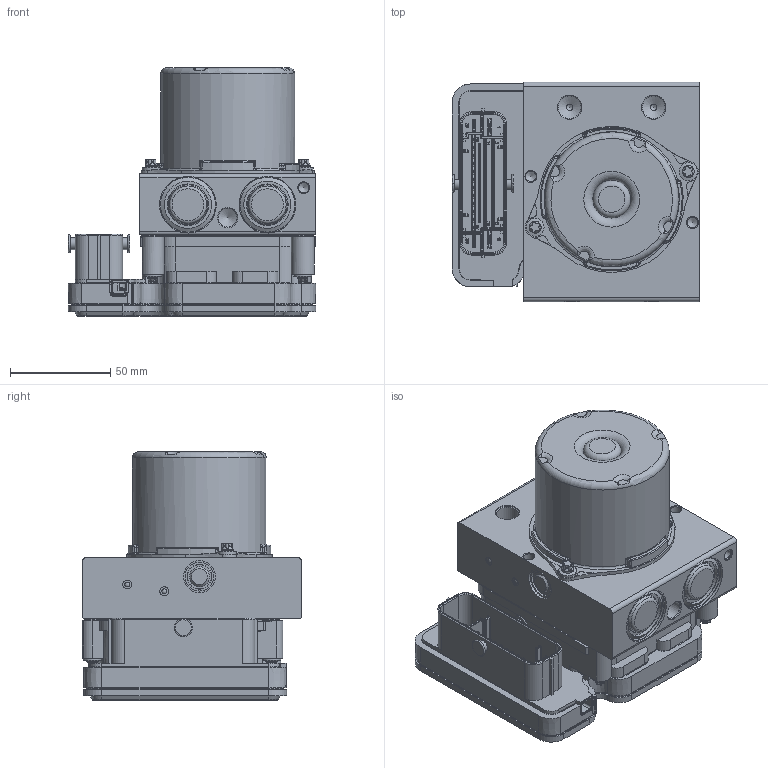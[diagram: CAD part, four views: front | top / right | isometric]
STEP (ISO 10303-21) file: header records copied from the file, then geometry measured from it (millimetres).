
FILE_DESCRIPTION(/* description */ (''),/* implementation_level */ '2;1');
FILE_NAME(/* name */ '0265A44672_001.stp',/* time_stamp */ '2017-04-25T10:29:24+07:00',/* author */ (''),/* organization */ (''),/* preprocessor_version */ 'ST-DEVELOPER v15',/* originating_system */ 'SIEMENS PLM Software NX 9.0',/* authorisation */ '');
FILE_SCHEMA (('AUTOMOTIVE_DESIGN { 1 0 10303 214 3 1 1 1 }'));
Products named in the file (5): 0130A00197_AGZ_001; 1263414853-ECU_001; 2264490337_AGZ_001; 0265A44672-AGZ_002; 0265A44672_001
Assembly tree (7 placements, depth 2):
  0265A44672_001
    0265A44672-AGZ_002
    2264490337_AGZ_001
    1263414853-ECU_001  x4
    0130A00197_AGZ_001
Bounding box: 123.65 x 109.65 x 124.3 mm (x, y, z)
Volume: 857736.8 mm3; surface area: 116321.3 mm2
Topology: 11 solids, 11 shells, 3456 faces, 9239 edges, 5867 vertices
Faces by surface type: plane 2077, cylinder 949, torus 180, cone 127, bspline 80, sphere 37, extrusion 6
Full cylindrical faces by diameter (mm): 3.2 x6, 4.4 x8, 4.8 x4, 5.25 x3, 5.75 x2, 5.8 x2, 5.95 x2, 6 x1, 9 x6, 9.35 x5, 10.2 x5, 11.35 x2, 12.1 x2, 12.2 x2, 14.4 x2, 16 x2, 23.589 x2, 27.4 x2, 28.3 x2, 67 x1
Entity records: 129407 total; most frequent: CARTESIAN_POINT 25881, ORIENTED_EDGE 17416, DIRECTION 16574, EDGE_CURVE 8708, VECTOR 6116, LINE 6110, VERTEX_POINT 5599, AXIS2_PLACEMENT_3D 5229
